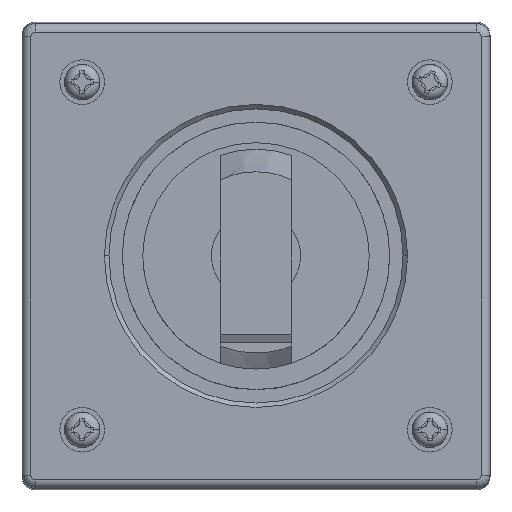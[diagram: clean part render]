
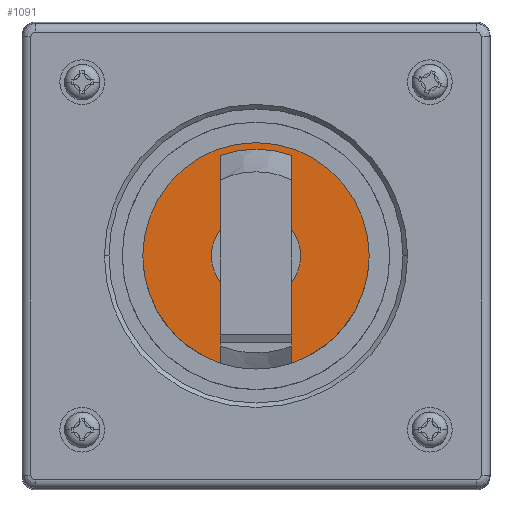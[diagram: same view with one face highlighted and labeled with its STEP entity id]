
A CAD part, top view. The second image highlights one B-rep face of the part: STEP entity #1091.
In plain terms, the highlighted planar face has unit normal (0, 0, 1) as drawn and (0, 1, 0) by its records, which use the part's own axes.
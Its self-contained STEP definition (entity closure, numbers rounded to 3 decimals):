
#841 = EDGE_CURVE ( 'NONE', #914, #842, #3567, .T. ) ;
#842 = VERTEX_POINT ( 'NONE', #3562 ) ;
#843 = EDGE_CURVE ( 'NONE', #1055, #1051, #3560, .T. ) ;
#846 = EDGE_CURVE ( 'NONE', #1041, #1061, #3889, .T. ) ;
#859 = ORIENTED_EDGE ( 'NONE', *, *, #860, .F. ) ;
#860 = EDGE_CURVE ( 'NONE', #1041, #1078, #3899, .T. ) ;
#861 = ORIENTED_EDGE ( 'NONE', *, *, #846, .T. ) ;
#862 = ORIENTED_EDGE ( 'NONE', *, *, #1098, .T. ) ;
#863 = ORIENTED_EDGE ( 'NONE', *, *, #843, .T. ) ;
#864 = VERTEX_POINT ( 'NONE', #3801 ) ;
#914 = VERTEX_POINT ( 'NONE', #3755 ) ;
#993 = ORIENTED_EDGE ( 'NONE', *, *, #994, .F. ) ;
#994 = EDGE_CURVE ( 'NONE', #995, #1066, #3994, .T. ) ;
#995 = VERTEX_POINT ( 'NONE', #3990 ) ;
#996 = ORIENTED_EDGE ( 'NONE', *, *, #997, .F. ) ;
#997 = EDGE_CURVE ( 'NONE', #1074, #995, #3989, .T. ) ;
#1041 = VERTEX_POINT ( 'NONE', #4041 ) ;
#1051 = VERTEX_POINT ( 'NONE', #4030 ) ;
#1055 = VERTEX_POINT ( 'NONE', #4005 ) ;
#1061 = VERTEX_POINT ( 'NONE', #3995 ) ;
#1062 = ORIENTED_EDGE ( 'NONE', *, *, #1063, .F. ) ;
#1063 = EDGE_CURVE ( 'NONE', #864, #1051, #4132, .T. ) ;
#1064 = ORIENTED_EDGE ( 'NONE', *, *, #1065, .F. ) ;
#1065 = EDGE_CURVE ( 'NONE', #1066, #864, #4128, .T. ) ;
#1066 = VERTEX_POINT ( 'NONE', #4123 ) ;
#1072 = ORIENTED_EDGE ( 'NONE', *, *, #1073, .F. ) ;
#1073 = EDGE_CURVE ( 'NONE', #842, #1074, #4117, .T. ) ;
#1074 = VERTEX_POINT ( 'NONE', #4113 ) ;
#1075 = ORIENTED_EDGE ( 'NONE', *, *, #841, .F. ) ;
#1076 = ORIENTED_EDGE ( 'NONE', *, *, #1077, .F. ) ;
#1077 = EDGE_CURVE ( 'NONE', #1078, #914, #3944, .T. ) ;
#1078 = VERTEX_POINT ( 'NONE', #3939 ) ;
#1090 = EDGE_LOOP ( 'NONE', ( #1072, #1075, #1076, #859, #861, #862, #863, #1062, #1064, #993, #996 ) ) ;
#1091 = ADVANCED_FACE ( 'NONE', ( #4102 ), #4101, .T. ) ;
#1098 = EDGE_CURVE ( 'NONE', #1061, #1055, #4091, .T. ) ;
#2287 = DIRECTION ( 'NONE',  ( 0., 0., 1. ) ) ;
#3557 = DIRECTION ( 'NONE',  ( 0., 1., 0. ) ) ;
#3558 = CARTESIAN_POINT ( 'NONE',  ( 0., 20., 0. ) ) ;
#3559 = AXIS2_PLACEMENT_3D ( 'NONE', #3558, #3557, #2287 ) ;
#3560 = CIRCLE ( 'NONE', #3559, 25.4 ) ;
#3562 = CARTESIAN_POINT ( 'NONE',  ( -6., 20., -8. ) ) ;
#3563 = DIRECTION ( 'NONE',  ( 0., 0., 1. ) ) ;
#3564 = DIRECTION ( 'NONE',  ( 0., 1., 0. ) ) ;
#3565 = CARTESIAN_POINT ( 'NONE',  ( 0., 20., 0. ) ) ;
#3566 = AXIS2_PLACEMENT_3D ( 'NONE', #3565, #3564, #3563 ) ;
#3567 = CIRCLE ( 'NONE', #3566, 10. ) ;
#3755 = CARTESIAN_POINT ( 'NONE',  ( 0., 20., -10. ) ) ;
#3801 = CARTESIAN_POINT ( 'NONE',  ( 6., 20., 8. ) ) ;
#3802 = DIRECTION ( 'NONE',  ( -1., 0., 0. ) ) ;
#3885 = DIRECTION ( 'NONE',  ( 0., 0., 1. ) ) ;
#3886 = DIRECTION ( 'NONE',  ( 0., 1., 0. ) ) ;
#3887 = CARTESIAN_POINT ( 'NONE',  ( 0., 20., 0. ) ) ;
#3888 = AXIS2_PLACEMENT_3D ( 'NONE', #3887, #3886, #3885 ) ;
#3889 = CIRCLE ( 'NONE', #3888, 25.4 ) ;
#3897 = VECTOR ( 'NONE', #3802, 1000. ) ;
#3898 = CARTESIAN_POINT ( 'NONE',  ( -22.521, 20., -8. ) ) ;
#3899 = LINE ( 'NONE', #3898, #3897 ) ;
#3939 = CARTESIAN_POINT ( 'NONE',  ( 6., 20., -8. ) ) ;
#3940 = DIRECTION ( 'NONE',  ( 0., 0., 1. ) ) ;
#3941 = DIRECTION ( 'NONE',  ( 0., 1., 0. ) ) ;
#3942 = CARTESIAN_POINT ( 'NONE',  ( 0., 20., 0. ) ) ;
#3943 = AXIS2_PLACEMENT_3D ( 'NONE', #3942, #3941, #3940 ) ;
#3944 = CIRCLE ( 'NONE', #3943, 10. ) ;
#3986 = DIRECTION ( 'NONE',  ( 0., 1., 0. ) ) ;
#3987 = CARTESIAN_POINT ( 'NONE',  ( 0., 20., 0. ) ) ;
#3988 = AXIS2_PLACEMENT_3D ( 'NONE', #3987, #3986, #4080 ) ;
#3989 = CIRCLE ( 'NONE', #3988, 23.9 ) ;
#3990 = CARTESIAN_POINT ( 'NONE',  ( -22.521, 20., 8. ) ) ;
#3991 = DIRECTION ( 'NONE',  ( 1., 0., 0. ) ) ;
#3992 = VECTOR ( 'NONE', #3991, 1000. ) ;
#3993 = CARTESIAN_POINT ( 'NONE',  ( -22.521, 20., 8. ) ) ;
#3994 = LINE ( 'NONE', #3993, #3992 ) ;
#3995 = CARTESIAN_POINT ( 'NONE',  ( 0., 20., -25.4 ) ) ;
#4005 = CARTESIAN_POINT ( 'NONE',  ( 0., 20., 25.4 ) ) ;
#4030 = CARTESIAN_POINT ( 'NONE',  ( 24.107, 20., 8. ) ) ;
#4041 = CARTESIAN_POINT ( 'NONE',  ( 24.107, 20., -8. ) ) ;
#4080 = DIRECTION ( 'NONE',  ( 0., 0., 1. ) ) ;
#4087 = DIRECTION ( 'NONE',  ( 0., 0., 1. ) ) ;
#4088 = DIRECTION ( 'NONE',  ( 0., 1., 0. ) ) ;
#4089 = CARTESIAN_POINT ( 'NONE',  ( 0., 20., 0. ) ) ;
#4090 = AXIS2_PLACEMENT_3D ( 'NONE', #4089, #4088, #4087 ) ;
#4091 = CIRCLE ( 'NONE', #4090, 25.4 ) ;
#4097 = DIRECTION ( 'NONE',  ( 0., 0., 1. ) ) ;
#4098 = DIRECTION ( 'NONE',  ( 0., 1., 0. ) ) ;
#4099 = CARTESIAN_POINT ( 'NONE',  ( 0., 20., 0. ) ) ;
#4100 = AXIS2_PLACEMENT_3D ( 'NONE', #4099, #4098, #4097 ) ;
#4101 = PLANE ( 'NONE',  #4100 ) ;
#4102 = FACE_OUTER_BOUND ( 'NONE', #1090, .T. ) ;
#4113 = CARTESIAN_POINT ( 'NONE',  ( -22.521, 20., -8. ) ) ;
#4114 = DIRECTION ( 'NONE',  ( -1., 0., 0. ) ) ;
#4115 = VECTOR ( 'NONE', #4114, 1000. ) ;
#4116 = CARTESIAN_POINT ( 'NONE',  ( -22.521, 20., -8. ) ) ;
#4117 = LINE ( 'NONE', #4116, #4115 ) ;
#4123 = CARTESIAN_POINT ( 'NONE',  ( -6., 20., 8. ) ) ;
#4124 = DIRECTION ( 'NONE',  ( 0., 0., 1. ) ) ;
#4125 = DIRECTION ( 'NONE',  ( 0., 1., 0. ) ) ;
#4126 = CARTESIAN_POINT ( 'NONE',  ( 0., 20., 0. ) ) ;
#4127 = AXIS2_PLACEMENT_3D ( 'NONE', #4126, #4125, #4124 ) ;
#4128 = CIRCLE ( 'NONE', #4127, 10. ) ;
#4129 = DIRECTION ( 'NONE',  ( 1., 0., 0. ) ) ;
#4130 = VECTOR ( 'NONE', #4129, 1000. ) ;
#4131 = CARTESIAN_POINT ( 'NONE',  ( -22.521, 20., 8. ) ) ;
#4132 = LINE ( 'NONE', #4131, #4130 ) ;
